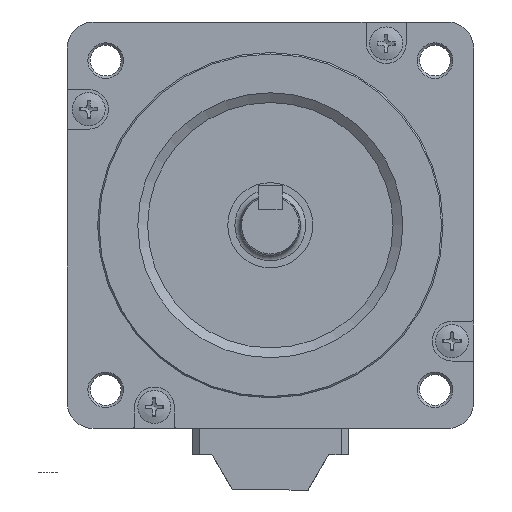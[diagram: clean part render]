
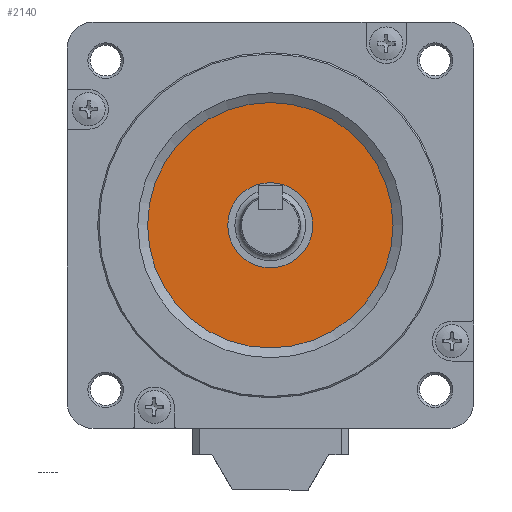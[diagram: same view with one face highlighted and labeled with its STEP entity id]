
A CAD part, front view. The second image highlights one B-rep face of the part: STEP entity #2140.
In plain terms, the highlighted planar face has unit normal (0, -1, 0).
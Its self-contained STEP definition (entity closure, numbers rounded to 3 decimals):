
#60=CARTESIAN_POINT('',(25.935,-17.1,0.));
#61=VERTEX_POINT('',#60);
#68=CARTESIAN_POINT('',(0.,-17.1,0.));
#69=DIRECTION('',(1.,0.,0.));
#70=DIRECTION('',(0.,-1.,0.));
#71=AXIS2_PLACEMENT_3D('',#68,#70,#69);
#72=CIRCLE('',#71,25.935);
#73=EDGE_CURVE('',#61,#61,#72,.T.);
#2121=CARTESIAN_POINT('',(-7.503,-17.1,0.));
#2122=DIRECTION('',(1.,0.,0.));
#2123=DIRECTION('',(0.,-1.,0.));
#2124=AXIS2_PLACEMENT_3D('',#2121,#2123,#2122);
#2125=PLANE('',#2124);
#2126=ORIENTED_EDGE('',*,*,#73,.T.);
#2127=EDGE_LOOP('',(#2126));
#2128=FACE_OUTER_BOUND('',#2127,.T.);
#2129=CARTESIAN_POINT('',(9.,-17.1,0.));
#2130=VERTEX_POINT('',#2129);
#2131=CARTESIAN_POINT('',(0.,-17.1,0.));
#2132=DIRECTION('',(1.,0.,0.));
#2133=DIRECTION('',(0.,-1.,0.));
#2134=AXIS2_PLACEMENT_3D('',#2131,#2133,#2132);
#2135=CIRCLE('',#2134,9.);
#2136=EDGE_CURVE('',#2130,#2130,#2135,.T.);
#2137=ORIENTED_EDGE('E212',*,*,#2136,.F.);
#2138=EDGE_LOOP('',(#2137));
#2139=FACE_BOUND('',#2138,.T.);
#2140=ADVANCED_FACE('F90',(#2128,#2139),#2125,.T.);
